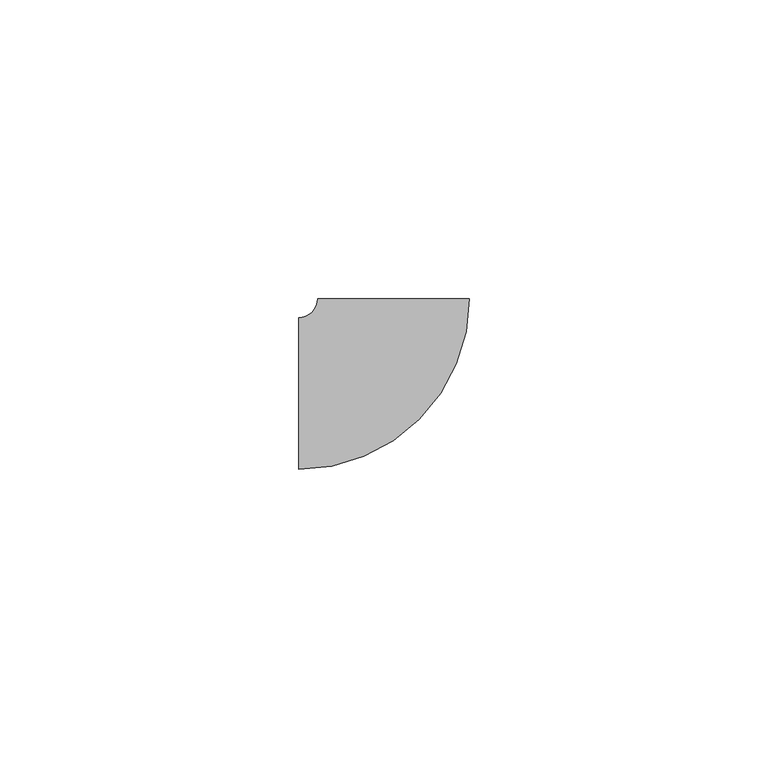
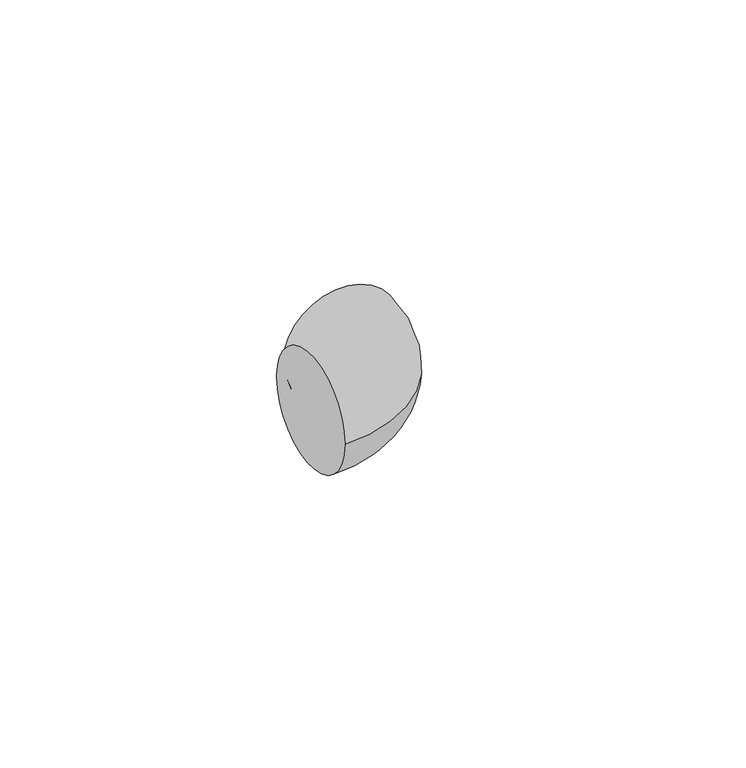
"""IFC4 building model written with IfcOpenShell, lengths in millimetres: pipe fitting geometry, 弯头 - 常规 : 标准."""

from ifc_helpers import new_model, si_unit, point, frame, origin, place, context, project, spatial, circle_curve, ellipse_curve, trimmed, source, transform, mapped, element, save
from ifc_brep_helpers import plane_surface, revolved_surface, advanced_brep


def pipe_fitting_77111f3f(model_context):
    return source(origin(), model_context, "Body", "AdvancedBrep", [
        advanced_brep(
        [(-15.9089844, -12.7089844, 0.0), (-15.9089844, 12.7089844, 0.0), (12.7089844, 15.9089844, 0.0), (-12.7089844, 15.9089844, 0.0)],
        [
            (0, 1, circle_curve(frame((-15.9089844, 0.0, 0.0), z_axis=(-1.0, 0.0, 0.0), x_axis=(0.0, 1.0, 0.0)), 12.7089844)),
            (1, 0, circle_curve(frame((-15.9089844, 0.0, 0.0), z_axis=(-1.0, 0.0, 0.0), x_axis=(0.0, 1.0, 0.0)), 12.7089844)),
            (2, 3, circle_curve(frame((0.0, 15.9089844, 0.0), z_axis=(0.0, 1.0, 0.0), x_axis=(-1.0, 0.0, 0.0)), 12.7089844)),
            (3, 2, circle_curve(frame((0.0, 15.9089844, 0.0), z_axis=(0.0, 1.0, 0.0), x_axis=(-1.0, 0.0, 0.0)), 12.7089844)),
            (3, 1, circle_curve(frame((-15.9089844, 15.9089844, 0.0), z_axis=(0.0, 0.0, -1.0), x_axis=(0.0, -1.0, 0.0)), 3.2)),
            (0, 2, circle_curve(frame((-15.9089844, 15.9089844, 0.0), z_axis=(0.0, 0.0, 1.0), x_axis=(0.0, -1.0, 0.0)), 28.6179687)),
        ],
        [
            plane_surface(frame((-15.9089844, 0.0, 0.0), z_axis=(-1.0, 0.0, 0.0), x_axis=(0.0, 0.0, 1.0))),
            plane_surface(frame((0.0, 15.9089844, 0.0), z_axis=(0.0, 1.0, 0.0), x_axis=(0.0, 0.0, 1.0))),
            revolved_surface(trimmed(ellipse_curve(frame((-15.9089844, 0.0, 0.0), z_axis=(-1.0, 0.0, 0.0), x_axis=(0.0, 1.0, 0.0)), 12.7089844, 12.7089844), [point((-15.9089844, -12.7089844, 0.0))], [point((-15.9089844, 12.7089844, 0.0))], True, "CARTESIAN"), (-15.9089844, 15.9089844, 0.0), (0.0, 0.0, 1.0)),
            revolved_surface(trimmed(ellipse_curve(frame((-15.9089844, 0.0, 0.0), z_axis=(-1.0, 0.0, 0.0), x_axis=(0.0, 1.0, 0.0)), 12.7089844, 12.7089844), [point((-15.9089844, 12.7089844, 0.0))], [point((-15.9089844, -12.7089844, 0.0))], True, "CARTESIAN"), (-15.9089844, 15.9089844, 0.0), (0.0, 0.0, 1.0)),
        ],
        [
            (0, [[1, 2]]),
            (1, [[3, 4]]),
            (2, [[5, -1, 6, -4]]),
            (3, [[-6, -2, -5, -3]]),
        ],
    ),
    ])


if __name__ == "__main__":
    model = new_model("IFC4")
    model_context = context("Model", 3, world=origin())
    ifc_project = project(units=[si_unit("LENGTHUNIT", "METRE", prefix="MILLI")], contexts=[model_context])
    site = spatial("IfcSite", under=ifc_project)
    building = spatial("IfcBuilding", under=site)
    placement = place(None, origin())
    pipe_fitting_shape = pipe_fitting_77111f3f(model_context)
    element("IfcPipeFitting", 1, ObjectType="弯头 - 常规 : 标准", at=placement, inside=building, context=model_context, shape_type="MappedRepresentation", body=[
        mapped(pipe_fitting_shape, transform((0.0, 0.0, 0.0), x_axis=(1.0, 0.0, 0.0), y_axis=(0.0, 1.0, 0.0), z_axis=(0.0, 0.0, 1.0))),
    ])
    save(model, "model.ifc")
